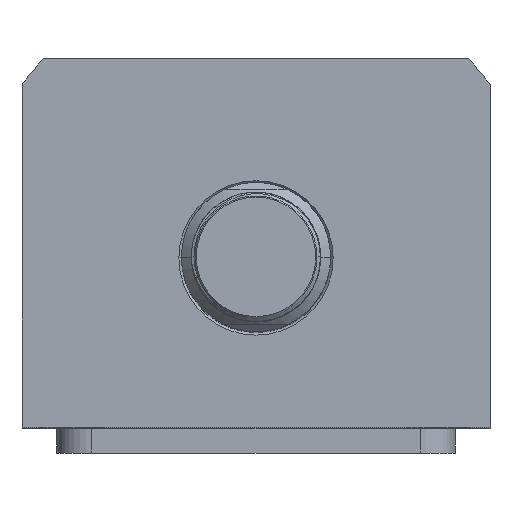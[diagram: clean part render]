
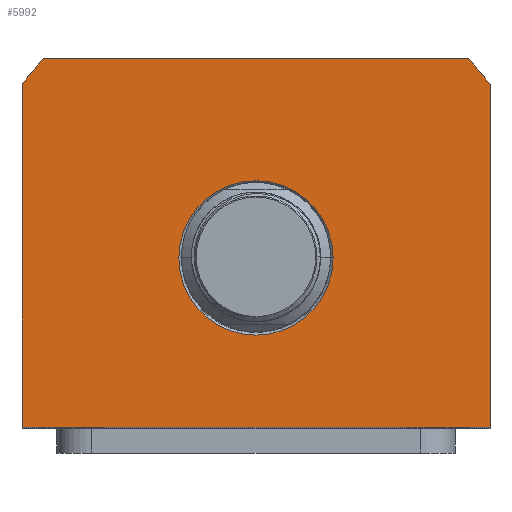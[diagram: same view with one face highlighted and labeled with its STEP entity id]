
A CAD part, top view. The second image highlights one B-rep face of the part: STEP entity #5992.
In plain terms, the highlighted planar face has unit normal (0, 0, 1).
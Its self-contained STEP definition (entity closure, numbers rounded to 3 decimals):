
#133 = EDGE_CURVE ( 'NONE', #2036, #12696, #1267, .T. ) ;
#1090 = FACE_BOUND ( 'NONE', #11012, .T. ) ;
#1140 = EDGE_CURVE ( 'NONE', #18611, #13628, #10095, .T. ) ;
#1249 = ORIENTED_EDGE ( 'NONE', *, *, #19530, .T. ) ;
#1267 = LINE ( 'NONE', #9421, #12958 ) ;
#1520 = AXIS2_PLACEMENT_3D ( 'NONE', #8791, #10260, #13376 ) ;
#2001 = CARTESIAN_POINT ( 'NONE',  ( 0., 0., 77.5 ) ) ;
#2036 = VERTEX_POINT ( 'NONE', #14113 ) ;
#2547 = CARTESIAN_POINT ( 'NONE',  ( 15.5, 0., 77.5 ) ) ;
#2928 = ORIENTED_EDGE ( 'NONE', *, *, #8565, .T. ) ;
#3046 = DIRECTION ( 'NONE',  ( 1., 0., 0. ) ) ;
#3117 = DIRECTION ( 'NONE',  ( 1., 0., 0. ) ) ;
#3154 = CIRCLE ( 'NONE', #17094, 58.5 ) ;
#3285 = VERTEX_POINT ( 'NONE', #17117 ) ;
#4122 = CARTESIAN_POINT ( 'NONE',  ( 0., 0., 77.5 ) ) ;
#4199 = VERTEX_POINT ( 'NONE', #11866 ) ;
#4571 = CARTESIAN_POINT ( 'NONE',  ( 0., 0., 77.5 ) ) ;
#4620 = DIRECTION ( 'NONE',  ( 0., 1., 0. ) ) ;
#4859 = EDGE_CURVE ( 'NONE', #4199, #5648, #10191, .T. ) ;
#5647 = DIRECTION ( 'NONE',  ( 0., 0., 1. ) ) ;
#5648 = VERTEX_POINT ( 'NONE', #2547 ) ;
#5992 = ADVANCED_FACE ( 'NONE', ( #1090, #10630 ), #7990, .T. ) ;
#6069 = ORIENTED_EDGE ( 'NONE', *, *, #133, .T. ) ;
#6249 = VECTOR ( 'NONE', #18420, 1000. ) ;
#6914 = EDGE_LOOP ( 'NONE', ( #1249, #6069, #2928, #19436, #16963, #12815 ) ) ;
#7498 = CIRCLE ( 'NONE', #16877, 58.5 ) ;
#7969 = CARTESIAN_POINT ( 'NONE',  ( -47., -34., 77.5 ) ) ;
#7990 = PLANE ( 'NONE',  #12000 ) ;
#8272 = EDGE_CURVE ( 'NONE', #5648, #4199, #18001, .T. ) ;
#8565 = EDGE_CURVE ( 'NONE', #12696, #3285, #7498, .T. ) ;
#8791 = CARTESIAN_POINT ( 'NONE',  ( 0., 0., 77.5 ) ) ;
#9037 = DIRECTION ( 'NONE',  ( -1., 0., 0. ) ) ;
#9087 = AXIS2_PLACEMENT_3D ( 'NONE', #4571, #10511, #3117 ) ;
#9421 = CARTESIAN_POINT ( 'NONE',  ( 47., 34.832, 77.5 ) ) ;
#9519 = DIRECTION ( 'NONE',  ( 0., 0., 1. ) ) ;
#10095 = LINE ( 'NONE', #7969, #6249 ) ;
#10191 = CIRCLE ( 'NONE', #1520, 15.5 ) ;
#10260 = DIRECTION ( 'NONE',  ( 0., 0., -1. ) ) ;
#10511 = DIRECTION ( 'NONE',  ( 0., 0., -1. ) ) ;
#10630 = FACE_OUTER_BOUND ( 'NONE', #6914, .T. ) ;
#11012 = EDGE_LOOP ( 'NONE', ( #12383, #12884 ) ) ;
#11596 = VERTEX_POINT ( 'NONE', #15174 ) ;
#11791 = CARTESIAN_POINT ( 'NONE',  ( -42.688, 40., 77.5 ) ) ;
#11866 = CARTESIAN_POINT ( 'NONE',  ( -15.5, 0., 77.5 ) ) ;
#12000 = AXIS2_PLACEMENT_3D ( 'NONE', #2001, #9519, #14119 ) ;
#12383 = ORIENTED_EDGE ( 'NONE', *, *, #8272, .T. ) ;
#12659 = DIRECTION ( 'NONE',  ( 0., 0., 1. ) ) ;
#12696 = VERTEX_POINT ( 'NONE', #17913 ) ;
#12710 = VECTOR ( 'NONE', #9037, 1000. ) ;
#12742 = EDGE_CURVE ( 'NONE', #11596, #18611, #3154, .T. ) ;
#12802 = EDGE_CURVE ( 'NONE', #3285, #11596, #16741, .T. ) ;
#12815 = ORIENTED_EDGE ( 'NONE', *, *, #1140, .T. ) ;
#12884 = ORIENTED_EDGE ( 'NONE', *, *, #4859, .T. ) ;
#12958 = VECTOR ( 'NONE', #4620, 1000. ) ;
#13121 = CARTESIAN_POINT ( 'NONE',  ( -47., 34.832, 77.5 ) ) ;
#13376 = DIRECTION ( 'NONE',  ( 1., 0., 0. ) ) ;
#13543 = CARTESIAN_POINT ( 'NONE',  ( -47., -34., 77.5 ) ) ;
#13628 = VERTEX_POINT ( 'NONE', #13543 ) ;
#14113 = CARTESIAN_POINT ( 'NONE',  ( 47., -34., 77.5 ) ) ;
#14119 = DIRECTION ( 'NONE',  ( 1., 0., 0. ) ) ;
#14188 = DIRECTION ( 'NONE',  ( 1., 0., 0. ) ) ;
#15174 = CARTESIAN_POINT ( 'NONE',  ( -42.688, 40., 77.5 ) ) ;
#15976 = CARTESIAN_POINT ( 'NONE',  ( 0., 0., 77.5 ) ) ;
#16161 = VECTOR ( 'NONE', #3046, 1000. ) ;
#16304 = DIRECTION ( 'NONE',  ( 1., 0., 0. ) ) ;
#16387 = CARTESIAN_POINT ( 'NONE',  ( 47., -34., 77.5 ) ) ;
#16741 = LINE ( 'NONE', #11791, #12710 ) ;
#16877 = AXIS2_PLACEMENT_3D ( 'NONE', #15976, #12659, #14188 ) ;
#16963 = ORIENTED_EDGE ( 'NONE', *, *, #12742, .T. ) ;
#17094 = AXIS2_PLACEMENT_3D ( 'NONE', #4122, #5647, #16304 ) ;
#17117 = CARTESIAN_POINT ( 'NONE',  ( 42.688, 40., 77.5 ) ) ;
#17913 = CARTESIAN_POINT ( 'NONE',  ( 47., 34.832, 77.5 ) ) ;
#18001 = CIRCLE ( 'NONE', #9087, 15.5 ) ;
#18420 = DIRECTION ( 'NONE',  ( 0., -1., 0. ) ) ;
#18611 = VERTEX_POINT ( 'NONE', #13121 ) ;
#19436 = ORIENTED_EDGE ( 'NONE', *, *, #12802, .T. ) ;
#19493 = LINE ( 'NONE', #16387, #16161 ) ;
#19530 = EDGE_CURVE ( 'NONE', #13628, #2036, #19493, .T. ) ;
